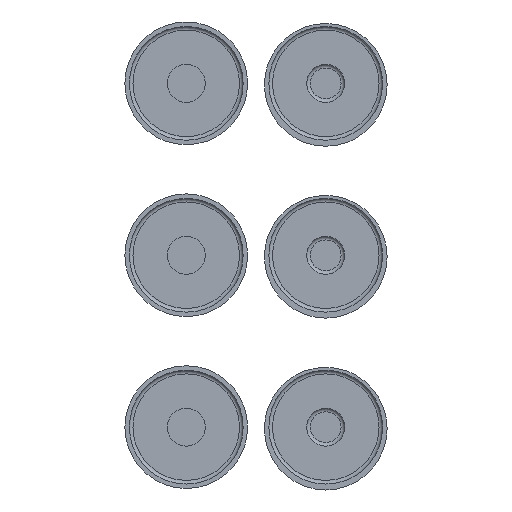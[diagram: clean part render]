
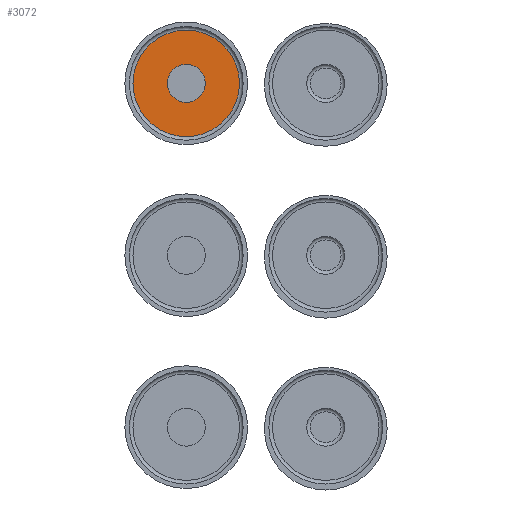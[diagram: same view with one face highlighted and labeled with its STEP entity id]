
A CAD part, front view. The second image highlights one B-rep face of the part: STEP entity #3072.
In plain terms, the highlighted planar face has unit normal (0, 1, 0).
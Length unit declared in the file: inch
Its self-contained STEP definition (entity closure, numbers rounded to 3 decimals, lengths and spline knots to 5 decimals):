
#796=PLANE('',#3292);
#887=FACE_BOUND('',#1266,.T.);
#1053=FACE_OUTER_BOUND('',#1265,.T.);
#1265=EDGE_LOOP('',(#2525));
#1266=EDGE_LOOP('',(#2526));
#1485=CIRCLE('',#3289,14.645);
#1487=CIRCLE('',#3293,5.22);
#1683=VERTEX_POINT('',#4725);
#1685=VERTEX_POINT('',#4731);
#2014=EDGE_CURVE('',#1683,#1683,#1485,.T.);
#2016=EDGE_CURVE('',#1685,#1685,#1487,.T.);
#2525=ORIENTED_EDGE('',*,*,#2014,.F.);
#2526=ORIENTED_EDGE('',*,*,#2016,.T.);
#3072=ADVANCED_FACE('',(#1053,#887),#796,.F.);
#3289=AXIS2_PLACEMENT_3D('',#4726,#3832,#3833);
#3292=AXIS2_PLACEMENT_3D('',#4730,#3838,#3839);
#3293=AXIS2_PLACEMENT_3D('',#4732,#3840,#3841);
#3832=DIRECTION('center_axis',(0.,-1.,0.));
#3833=DIRECTION('ref_axis',(-1.,0.,0.));
#3838=DIRECTION('center_axis',(0.,-1.,0.));
#3839=DIRECTION('ref_axis',(0.,0.,-1.));
#3840=DIRECTION('center_axis',(0.,-1.,0.));
#3841=DIRECTION('ref_axis',(-1.,0.,0.));
#4725=CARTESIAN_POINT('',(-4.525,53.09,118.125));
#4726=CARTESIAN_POINT('Origin',(-19.17,53.09,118.125));
#4730=CARTESIAN_POINT('Origin',(-19.17,53.09,118.125));
#4731=CARTESIAN_POINT('',(-13.95,53.09,118.125));
#4732=CARTESIAN_POINT('Origin',(-19.17,53.09,118.125));
